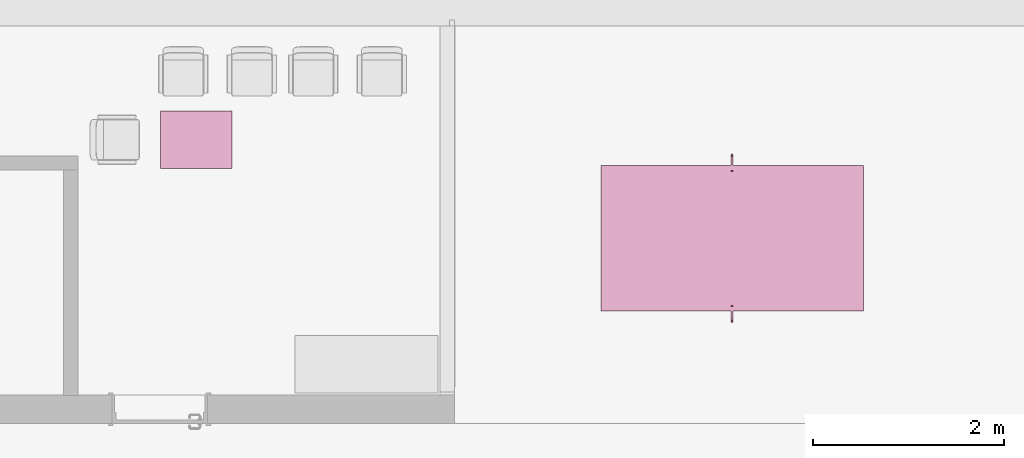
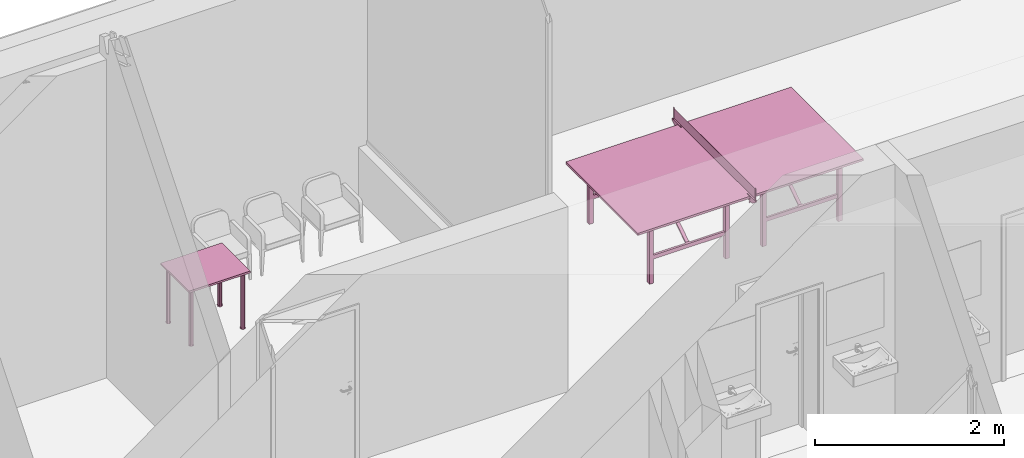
# One storey, part 172 of 194: 2 furnishings.
"""IFC2X3 building model written with IfcOpenShell, lengths in millimetres."""

import ifcopenshell
import ifcopenshell.guid

model = None  # the IFC model being written
_history = None  # IfcOwnerHistory: only IFC2X3 demands one
_inside = {}  # id of a spatial element -> (the spatial element, [elements in it])
_under = {}  # id of a project, library or spatial element -> (it, [spatial elements below it])
_declared = {}  # id of a project -> (the project, [libraries it declares])
_typed = {}  # id of a type object -> (the type object, [elements of that type])
_made_of = {}  # id of a material, layer set ... -> (it, [elements and type objects made of it])


def new_model(schema):
    """Start an empty IFC model of exactly this schema.

    Asked for "IFC4X3", IfcOpenShell would pick the latest addendum, in which some entities
    have other attributes; the version numbers below select the first issue.
    IFC2X3 requires an IfcOwnerHistory on every rooted entity: one is made here for all.
    """
    global model, _history
    if schema == "IFC4X3":
        model = ifcopenshell.file(schema_version=(4, 3, 0, 0))
    else:
        model = ifcopenshell.file(schema=schema)
    _inside.clear()
    _under.clear()
    _declared.clear()
    _typed.clear()
    _made_of.clear()
    _history = None
    if model.schema == "IFC2X3":
        org = make("IfcOrganization", Name="unknown")
        user = make(
            "IfcPersonAndOrganization",
            ThePerson=make("IfcPerson", FamilyName="unknown"),
            TheOrganization=org,
        )
        app = make(
            "IfcApplication",
            ApplicationDeveloper=org,
            Version="unknown",
            ApplicationFullName="unknown",
            ApplicationIdentifier="unknown",
        )
        _history = make(
            "IfcOwnerHistory",
            OwningUser=user,
            OwningApplication=app,
            ChangeAction="ADDED",
            CreationDate=0,
        )
    return model


def make(cls, **values):
    """One entity of the class cls with the attributes given. An attribute that is None is left unset."""
    return model.create_entity(
        cls, **{name: value for name, value in values.items() if value is not None}
    )


def entity(cls, *values):
    """Any entity or typed value of the class cls, its attributes in the order of the schema. None: left unset."""
    e = model.create_entity(cls)
    for i, value in enumerate(values):
        if value is not None:
            e[i] = value
    return e


def rooted(cls, **values):
    """An entity with a GlobalId (a new one), such as an element, a storey or a relation."""
    return make(cls, GlobalId=ifcopenshell.guid.new(), OwnerHistory=_history, **values)


def si_unit(unit_type, name, prefix=None):
    """IfcSIUnit, for example si_unit("LENGTHUNIT", "METRE", prefix="MILLI")."""
    return make("IfcSIUnit", UnitType=unit_type, Prefix=prefix, Name=name)


def converted_unit(unit_type, name, factor, base, dimensions=None, offset=None):
    """IfcConversionBasedUnit, such as the inch: factor (a typed value) times the base unit."""
    return make(
        "IfcConversionBasedUnit"
        if offset is None
        else "IfcConversionBasedUnitWithOffset",
        ConversionOffset=offset,
        Dimensions=None
        if dimensions is None
        else entity("IfcDimensionalExponents", *dimensions),
        UnitType=unit_type,
        Name=name,
        ConversionFactor=make(
            "IfcMeasureWithUnit", ValueComponent=factor, UnitComponent=base
        ),
    )


def derived_unit(unit_type, elements):
    """IfcDerivedUnit: a product of units, each with its exponent."""
    return make(
        "IfcDerivedUnit",
        Elements=[
            make("IfcDerivedUnitElement", Unit=unit, Exponent=power)
            for unit, power in elements
        ],
        UnitType=unit_type,
    )


def money_unit(currency):
    """IfcMonetaryUnit."""
    return make("IfcMonetaryUnit", Currency=currency)


def assignment(units):
    """IfcUnitAssignment: the units of a project."""
    return None if units is None else make("IfcUnitAssignment", Units=units)


def point(xyz):
    """IfcCartesianPoint."""
    return None if xyz is None else make("IfcCartesianPoint", Coordinates=xyz)


def direction(xyz):
    """IfcDirection."""
    return None if xyz is None else make("IfcDirection", DirectionRatios=xyz)


def frame(location, z_axis=None, x_axis=None):
    """IfcAxis2Placement3D, a coordinate frame: its origin and axes. An axis left out is left unset."""
    return make(
        "IfcAxis2Placement3D",
        Location=point(location),
        Axis=direction(z_axis),
        RefDirection=direction(x_axis),
    )


def origin_with_axes():
    """The frame at (0, 0, 0) with the z axis (0, 0, 1) and the x axis (1, 0, 0) written out."""
    return frame((0.0, 0.0, 0.0), z_axis=(0.0, 0.0, 1.0), x_axis=(1.0, 0.0, 0.0))


def place(relative_to, where):
    """IfcLocalPlacement: puts the frame where relative to a parent placement (None: the world)."""
    return make(
        "IfcLocalPlacement", PlacementRelTo=relative_to, RelativePlacement=where
    )


def context(
    kind, dimensions, precision=None, world=None, true_north=None, identifier=None
):
    """IfcGeometricRepresentationContext, for example the 3D "Model" context."""
    return make(
        "IfcGeometricRepresentationContext",
        ContextIdentifier=identifier,
        ContextType=kind,
        CoordinateSpaceDimension=dimensions,
        Precision=precision,
        WorldCoordinateSystem=world,
        TrueNorth=true_north,
    )


def subcontext(parent, identifier, kind, view, scale=None):
    """IfcGeometricRepresentationSubContext, for example "Body" below "Model"."""
    return make(
        "IfcGeometricRepresentationSubContext",
        ContextIdentifier=identifier,
        ContextType=kind,
        ParentContext=parent,
        TargetScale=scale,
        TargetView=view,
    )


def project(units=None, contexts=None):
    """IfcProject with its units and contexts."""
    return rooted(
        "IfcProject",
        Name="project",
        RepresentationContexts=contexts,
        UnitsInContext=assignment(units),
    )


def spatial(cls, under=None, at=None, **own):
    """A site, building, storey or space (cls), placed at a placement, below another one or the project."""
    s = rooted(cls, ObjectPlacement=at, **own)
    if under is not None:
        _under.setdefault(under.id(), (under, []))[1].append(s)
    return s


def faces_of(points, faces, orient=None, outer=None):
    """IfcFace entities. A face is a list of loops; a loop is a list of indices into points, from 0.

    orient and outer hold one flag for each loop. By default every Orientation is true, the
    first loop of a face is its IfcFaceOuterBound and the others are IfcFaceBound.
    """
    made = []
    for i, loops in enumerate(faces):
        bounds = []
        for j, loop in enumerate(loops):
            is_outer = j == 0 if outer is None else outer[i][j]
            bounds.append(
                make(
                    "IfcFaceOuterBound" if is_outer else "IfcFaceBound",
                    Bound=make("IfcPolyLoop", Polygon=[points[k] for k in loop]),
                    Orientation=True if orient is None else orient[i][j],
                )
            )
        made.append(make("IfcFace", Bounds=bounds))
    return made


def faceted_brep(points, faces, orient=None, outer=None, voids=None):
    """IfcFacetedBrep: a solid bounded by flat faces; with voids (closed shells), ...WithVoids."""
    shared = [point(p) for p in points]
    hull = make("IfcClosedShell", CfsFaces=faces_of(shared, faces, orient, outer))
    if voids is None:
        return make("IfcFacetedBrep", Outer=hull)
    return make(
        "IfcFacetedBrepWithVoids",
        Outer=hull,
        Voids=[
            make(cls, CfsFaces=faces_of(shared, fs, o, b)) for cls, fs, o, b in voids
        ],
    )


def shape(context_of_items, identifier, shape_type, items):
    """IfcShapeRepresentation: the items that make up one representation, for example the "Body"."""
    return make(
        "IfcShapeRepresentation",
        ContextOfItems=context_of_items,
        RepresentationIdentifier=identifier,
        RepresentationType=shape_type,
        Items=items,
    )


def made_of(thing, what):
    """Note that an element or type object is made of a material, layer set ...; save() writes the relation."""
    if what is not None:
        _made_of.setdefault(what.id(), (what, []))[1].append(thing)
    return thing


def type_object(cls, material=None, **own):
    """A type object (cls), such as IfcWallType, which elements share."""
    return made_of(rooted(cls, **own), material)


def element(
    cls,
    number,
    at=None,
    inside=None,
    cuts=None,
    type_object=None,
    material=None,
    context=None,
    identifier="Body",
    shape_type=None,
    held_by="IfcProductDefinitionShape",
    body=None,
    shapes=None,
    **own,
):
    """One element of the class cls, such as IfcWall. Its Tag is "e" and its number.

    at: its placement. inside: the storey or other place that contains it. cuts: it is an
    opening in that element (IfcRelVoidsElement). A single representation is given by context,
    identifier, shape_type and body (its items); several are given by shapes. held_by: the class
    of the entity that holds the representations. save() writes the other relations.
    """
    e = rooted(cls, Tag="e%d" % number, ObjectPlacement=at, **own)
    if body is not None:
        shapes = [shape(context, identifier, shape_type, body)]
    if shapes is not None:
        e.Representation = make(held_by, Representations=shapes)
    if inside is not None:
        _inside.setdefault(inside.id(), (inside, []))[1].append(e)
    if cuts is not None:
        rooted(
            "IfcRelVoidsElement", RelatingBuildingElement=cuts, RelatedOpeningElement=e
        )
    if type_object is not None:
        _typed.setdefault(type_object.id(), (type_object, []))[1].append(e)
    return made_of(e, material)


def aggregate(whole, parts):
    """IfcRelAggregates: a whole, such as a stair, and the parts it consists of."""
    return rooted("IfcRelAggregates", RelatingObject=whole, RelatedObjects=parts)


def save(model, path):
    """Write the relations noted so far, then the file.

    IfcRelAggregates (storeys below a building ...), IfcRelContainedInSpatialStructure (elements
    in a storey), IfcRelDefinesByType, IfcRelAssociatesMaterial and IfcRelDeclares: one each for
    every whole, place, type object, material and project.
    """
    for whole, parts in _under.values():
        aggregate(whole, parts)
    for where, things in _inside.values():
        rooted(
            "IfcRelContainedInSpatialStructure",
            RelatedElements=things,
            RelatingStructure=where,
        )
    for kind, things in _typed.values():
        rooted("IfcRelDefinesByType", RelatedObjects=things, RelatingType=kind)
    for what, things in _made_of.values():
        rooted("IfcRelAssociatesMaterial", RelatedObjects=things, RelatingMaterial=what)
    for by, libraries in _declared.values():
        rooted("IfcRelDeclares", RelatingContext=by, RelatedDefinitions=libraries)
    model.write(path)


model = new_model("IFC2X3")

# Units and contexts
model_context = context("Model", 3, precision=1e-05, world=origin_with_axes(), true_north=direction((0.0, 1.0)))
body_context = subcontext(model_context, "Body", "Model", "MODEL_VIEW")
ifc_project = project(units=[si_unit("LENGTHUNIT", "METRE", prefix="MILLI"), si_unit("AREAUNIT", "SQUARE_METRE"), si_unit("VOLUMEUNIT", "CUBIC_METRE"), converted_unit("PLANEANGLEUNIT", "DEGREE", entity("IfcPlaneAngleMeasure", 0.0174532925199), si_unit("PLANEANGLEUNIT", "RADIAN"), dimensions=[0, 0, 0, 0, 0, 0, 0]), si_unit("SOLIDANGLEUNIT", "STERADIAN"), money_unit("EUR"), converted_unit("TIMEUNIT", "Year", entity("IfcTimeMeasure", 31556926.0), si_unit("TIMEUNIT", "SECOND"), dimensions=[0, 0, 1, 0, 0, 0, 0]), si_unit("MASSUNIT", "GRAM", prefix="KILO"), si_unit("THERMODYNAMICTEMPERATUREUNIT", "DEGREE_CELSIUS"), si_unit("LUMINOUSINTENSITYUNIT", "LUMEN"), si_unit("ENERGYUNIT", "JOULE", prefix="MEGA"), derived_unit("THERMALCONDUCTANCEUNIT", [(si_unit("POWERUNIT", "WATT"), 1), (si_unit("LENGTHUNIT", "METRE"), -1), (si_unit("THERMODYNAMICTEMPERATUREUNIT", "KELVIN"), -1)]), derived_unit("SPECIFICHEATCAPACITYUNIT", [(si_unit("ENERGYUNIT", "JOULE"), 1), (si_unit("MASSUNIT", "GRAM", prefix="KILO"), -1), (si_unit("THERMODYNAMICTEMPERATUREUNIT", "KELVIN"), -1)]), derived_unit("MASSDENSITYUNIT", [(si_unit("MASSUNIT", "GRAM", prefix="KILO"), 1), (si_unit("VOLUMEUNIT", "CUBIC_METRE"), -1)])], contexts=[model_context])

# Site, building, storey
site_placement = place(None, origin_with_axes())
site = spatial("IfcSite", under=ifc_project, at=site_placement, Name="Site", CompositionType="ELEMENT")
building_placement = place(site_placement, origin_with_axes())
building = spatial("IfcBuilding", under=site, at=building_placement, Name="Building", CompositionType="ELEMENT")
storey_placement = place(building_placement, frame((0.0, 0.0, 3000.0), z_axis=(0.0, 0.0, 1.0), x_axis=(1.0, 0.0, 0.0)))
storey = spatial("IfcBuildingStorey", under=building, at=storey_placement, Name="2 KORRUS", CompositionType="ELEMENT", Elevation=3000.0)

# Furnishings
furnishing_element_type_1 = type_object("IfcFurnishingElementType", Name="Model Element 125")
furnishing_1_placement = place(storey_placement, frame((73148.045491, 44642.9597358, 0.0), z_axis=(0.0, 0.0, 1.0), x_axis=(1.0, 0.0, 0.0)))
element("IfcFurnishingElement", 1, at=furnishing_1_placement, inside=storey, type_object=furnishing_element_type_1, Name="FU - 021", context=body_context, shape_type="Brep", body=[
    faceted_brep([(-1127.0, -662.5, 0.0), (-1127.0, -612.5, 0.0), (-1127.0, -612.5, 762.0), (-1127.0, -662.5, 762.0), (-1177.0, -662.5, 0.0), (-1177.0, -612.5, 0.0), (-1177.0, -612.5, 762.0), (-1177.0, -662.5, 762.0)], [[[0, 1, 2, 3]], [[0, 4, 5, 1]], [[1, 5, 6, 2]], [[3, 2, 6, 7]], [[4, 0, 3, 7]], [[5, 4, 7, 6]]]),
    faceted_brep([(-200.0, -662.5, 0.0), (-200.0, -612.5, 0.0), (-200.0, -612.5, 762.0), (-200.0, -662.5, 762.0), (-250.0, -662.5, 0.0), (-250.0, -612.5, 0.0), (-250.0, -612.5, 762.0), (-250.0, -662.5, 762.0)], [[[0, 1, 2, 3]], [[0, 4, 5, 1]], [[1, 5, 6, 2]], [[3, 2, 6, 7]], [[4, 0, 3, 7]], [[5, 4, 7, 6]]]),
    faceted_brep([(-1127.0, -650.0, 300.0), (-250.0, -650.0, 300.0), (-250.0, -650.0, 350.0), (-1127.0, -650.0, 350.0), (-1127.0, -625.0, 300.0), (-250.0, -625.0, 300.0), (-250.0, -625.0, 350.0), (-1127.0, -625.0, 350.0)], [[[0, 1, 2, 3]], [[0, 4, 5, 1]], [[1, 5, 6, 2]], [[3, 2, 6, 7]], [[4, 0, 3, 7]], [[5, 4, 7, 6]]]),
    faceted_brep([(-738.5, -25.0, 732.0), (-638.5, -25.0, 732.0), (-638.5, -25.0, 762.0), (-738.5, -25.0, 762.0), (-738.5, 0.0, 732.0), (-638.5, 0.0, 732.0), (-638.5, 0.0, 762.0), (-738.5, 0.0, 762.0)], [[[0, 1, 2, 3]], [[0, 4, 5, 1]], [[1, 5, 6, 2]], [[3, 2, 6, 7]], [[4, 0, 3, 7]], [[5, 4, 7, 6]]]),
    faceted_brep([(-708.5, 0.0, 732.0), (-708.5, 615.0, 332.0), (-668.5, 615.0, 332.0), (-668.5, 0.0, 732.0), (-708.5, 25.0, 732.0), (-708.5, 615.0, 350.0), (-668.5, 615.0, 350.0), (-668.5, 25.0, 732.0)], [[[0, 1, 2, 3]], [[0, 4, 5, 1]], [[1, 5, 6, 2]], [[3, 2, 6, 7]], [[4, 0, 3, 7]], [[5, 4, 7, 6]]]),
    faceted_brep([(-718.5, 615.0, 307.0), (-718.5, 625.0, 307.0), (-658.5, 625.0, 307.0), (-658.5, 615.0, 307.0), (-718.5, 615.0, 350.0), (-718.5, 625.0, 350.0), (-658.5, 625.0, 350.0), (-658.5, 615.0, 350.0)], [[[0, 1, 2, 3]], [[0, 4, 5, 1]], [[1, 5, 6, 2]], [[3, 2, 6, 7]], [[4, 0, 3, 7]], [[5, 4, 7, 6]]]),
    faceted_brep([(-250.0, 662.5, 0.0), (-250.0, 612.5, 0.0), (-250.0, 612.5, 762.0), (-250.0, 662.5, 762.0), (-200.0, 662.5, 0.0), (-200.0, 612.5, 0.0), (-200.0, 612.5, 762.0), (-200.0, 662.5, 762.0)], [[[0, 1, 2, 3]], [[0, 4, 5, 1]], [[1, 5, 6, 2]], [[3, 2, 6, 7]], [[4, 0, 3, 7]], [[5, 4, 7, 6]]]),
    faceted_brep([(-1177.0, 662.5, 0.0), (-1177.0, 612.5, 0.0), (-1177.0, 612.5, 762.0), (-1177.0, 662.5, 762.0), (-1127.0, 662.5, 0.0), (-1127.0, 612.5, 0.0), (-1127.0, 612.5, 762.0), (-1127.0, 662.5, 762.0)], [[[0, 1, 2, 3]], [[0, 4, 5, 1]], [[1, 5, 6, 2]], [[3, 2, 6, 7]], [[4, 0, 3, 7]], [[5, 4, 7, 6]]]),
    faceted_brep([(-250.0, 650.0, 300.0), (-1127.0, 650.0, 300.0), (-1127.0, 650.0, 350.0), (-250.0, 650.0, 350.0), (-250.0, 625.0, 300.0), (-1127.0, 625.0, 300.0), (-1127.0, 625.0, 350.0), (-250.0, 625.0, 350.0)], [[[0, 1, 2, 3]], [[0, 4, 5, 1]], [[1, 5, 6, 2]], [[3, 2, 6, 7]], [[4, 0, 3, 7]], [[5, 4, 7, 6]]]),
    faceted_brep([(-638.5, 25.0, 732.0), (-738.5, 25.0, 732.0), (-738.5, 25.0, 762.0), (-638.5, 25.0, 762.0), (-638.5, 0.0, 732.0), (-738.5, 0.0, 732.0), (-738.5, 0.0, 762.0), (-638.5, 0.0, 762.0)], [[[0, 1, 2, 3]], [[0, 4, 5, 1]], [[1, 5, 6, 2]], [[3, 2, 6, 7]], [[4, 0, 3, 7]], [[5, 4, 7, 6]]]),
    faceted_brep([(-668.5, 0.0, 732.0), (-668.5, -615.0, 332.0), (-708.5, -615.0, 332.0), (-708.5, 0.0, 732.0), (-668.5, -25.0, 732.0), (-668.5, -615.0, 350.0), (-708.5, -615.0, 350.0), (-708.5, -25.0, 732.0)], [[[0, 1, 2, 3]], [[0, 4, 5, 1]], [[1, 5, 6, 2]], [[3, 2, 6, 7]], [[4, 0, 3, 7]], [[5, 4, 7, 6]]]),
    faceted_brep([(-658.5, -615.0, 307.0), (-658.5, -625.0, 307.0), (-718.5, -625.0, 307.0), (-718.5, -615.0, 307.0), (-658.5, -615.0, 350.0), (-658.5, -625.0, 350.0), (-718.5, -625.0, 350.0), (-718.5, -615.0, 350.0)], [[[0, 1, 2, 3]], [[0, 4, 5, 1]], [[1, 5, 6, 2]], [[3, 2, 6, 7]], [[4, 0, 3, 7]], [[5, 4, 7, 6]]]),
    faceted_brep([(-1377.0, -762.5, 762.0), (0.0, -762.5, 762.0), (0.0, -762.5, 787.0), (-1377.0, -762.5, 787.0), (-1377.0, 762.5, 762.0), (0.0, 762.5, 762.0), (0.0, 762.5, 787.0), (-1377.0, 762.5, 787.0)], [[[0, 1, 2, 3]], [[0, 4, 5, 1]], [[1, 5, 6, 2]], [[3, 2, 6, 7]], [[4, 0, 3, 7]], [[5, 4, 7, 6]]]),
    faceted_brep([(-1357.0, -742.5, 787.0), (0.0, -742.5, 787.0), (0.0, -742.5, 789.0), (-1357.0, -742.5, 789.0), (-1357.0, -10.0, 787.0), (-50.0, -10.0, 787.0), (-50.0, 10.0, 787.0), (-1357.0, 10.0, 787.0), (-1357.0, 742.5, 787.0), (0.0, 742.5, 787.0), (0.0, 742.5, 789.0), (-1357.0, 742.5, 789.0), (-1357.0, 10.0, 789.0), (-50.0, 10.0, 789.0), (-50.0, -10.0, 789.0), (-1357.0, -10.0, 789.0)], [[[0, 1, 2, 3]], [[0, 4, 5, 6, 7, 8, 9, 1]], [[1, 9, 10, 2]], [[3, 2, 10, 11, 12, 13, 14, 15]], [[4, 0, 3, 15]], [[5, 4, 15, 14]], [[6, 5, 14, 13]], [[7, 6, 13, 12]], [[8, 7, 12, 11]], [[9, 8, 11, 10]]]),
    faceted_brep([(-1377.0, -762.5, 787.0), (0.0, -762.5, 787.0), (0.0, -762.5, 789.0), (-1377.0, -762.5, 789.0), (-1377.0, 762.5, 787.0), (0.0, 762.5, 787.0), (0.0, 742.5, 787.0), (-1357.0, 742.5, 787.0), (-1357.0, 10.0, 787.0), (-50.0, 10.0, 787.0), (-50.0, -10.0, 787.0), (-1357.0, -10.0, 787.0), (-1357.0, -742.5, 787.0), (0.0, -742.5, 787.0), (0.0, -742.5, 789.0), (-1357.0, -742.5, 789.0), (-1357.0, -10.0, 789.0), (-50.0, -10.0, 789.0), (-50.0, 10.0, 789.0), (-1357.0, 10.0, 789.0), (-1357.0, 742.5, 789.0), (0.0, 742.5, 789.0), (0.0, 762.5, 789.0), (-1377.0, 762.5, 789.0)], [[[0, 1, 2, 3]], [[0, 4, 5, 6, 7, 8, 9, 10, 11, 12, 13, 1]], [[1, 13, 14, 2]], [[3, 2, 14, 15, 16, 17, 18, 19, 20, 21, 22, 23]], [[4, 0, 3, 23]], [[5, 4, 23, 22]], [[6, 5, 22, 21]], [[7, 6, 21, 20]], [[8, 7, 20, 19]], [[9, 8, 19, 18]], [[10, 9, 18, 17]], [[11, 10, 17, 16]], [[12, 11, 16, 15]], [[13, 12, 15, 14]]]),
    faceted_brep([(10.0, -722.5, 729.0), (10.0, -812.5, 729.0), (-10.0, -812.5, 729.0), (-10.0, -722.5, 729.0), (10.0, -722.5, 749.0), (10.0, -762.5, 749.0), (10.0, -762.5, 789.0), (10.0, -702.5, 789.0), (10.0, -712.5, 799.0), (10.0, -882.5, 799.0), (10.0, -882.5, 779.0), (-10.0, -882.5, 779.0), (-10.0, -882.5, 799.0), (-10.0, -712.5, 799.0), (-10.0, -702.5, 789.0), (-10.0, -762.5, 789.0), (-10.0, -762.5, 749.0), (-10.0, -722.5, 749.0)], [[[0, 1, 2, 3]], [[0, 4, 5, 6, 7, 8, 9, 10, 1]], [[1, 10, 11, 2]], [[3, 2, 11, 12, 13, 14, 15, 16, 17]], [[4, 0, 3, 17]], [[5, 4, 17, 16]], [[6, 5, 16, 15]], [[7, 6, 15, 14]], [[8, 7, 14, 13]], [[9, 8, 13, 12]], [[10, 9, 12, 11]]]),
    faceted_brep([(-4.33012701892, -865.0, 799.0), (-4.33012701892, -860.0, 799.0), (0.0, -857.5, 799.0), (4.33012701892, -860.0, 799.0), (4.33012701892, -865.0, 799.0), (0.0, -867.5, 799.0), (-4.33012701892, -865.0, 949.0), (-4.33012701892, -860.0, 949.0), (0.0, -857.5, 949.0), (4.33012701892, -860.0, 949.0), (4.33012701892, -865.0, 949.0), (0.0, -867.5, 949.0)], [[[0, 1, 2, 3, 4, 5]], [[1, 0, 6, 7]], [[2, 1, 7, 8]], [[3, 2, 8, 9]], [[4, 3, 9, 10]], [[5, 4, 10, 11]], [[0, 5, 11, 6]], [[6, 11, 10, 9, 8, 7]]]),
    faceted_brep([(-8.66025403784, -747.5, 759.5), (-8.66025403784, -737.5, 759.5), (0.0, -732.5, 759.5), (8.66025403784, -737.5, 759.5), (8.66025403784, -747.5, 759.5), (0.0, -752.5, 759.5), (-8.66025403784, -747.5, 762.0), (-8.66025403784, -737.5, 762.0), (0.0, -732.5, 762.0), (8.66025403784, -737.5, 762.0), (8.66025403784, -747.5, 762.0), (0.0, -752.5, 762.0)], [[[0, 1, 2, 3, 4, 5]], [[1, 0, 6, 7]], [[2, 1, 7, 8]], [[3, 2, 8, 9]], [[4, 3, 9, 10]], [[5, 4, 10, 11]], [[0, 5, 11, 6]], [[6, 11, 10, 9, 8, 7]]]),
    faceted_brep([(-1.60696902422, -744.415111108, 749.0), (-2.46201938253, -742.934120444, 749.0), (-2.16506350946, -741.25, 749.0), (-0.85505035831, -740.150768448, 749.0), (0.85505035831, -740.150768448, 749.0), (2.16506350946, -741.25, 749.0), (2.46201938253, -742.934120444, 749.0), (1.60696902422, -744.415111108, 749.0), (0.0, -745.0, 749.0), (-1.60696902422, -744.415111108, 759.5), (-2.46201938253, -742.934120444, 759.5), (-2.16506350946, -741.25, 759.5), (-0.85505035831, -740.150768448, 759.5), (0.85505035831, -740.150768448, 759.5), (2.16506350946, -741.25, 759.5), (2.46201938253, -742.934120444, 759.5), (1.60696902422, -744.415111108, 759.5), (0.0, -745.0, 759.5)], [[[0, 1, 2, 3, 4, 5, 6, 7, 8]], [[1, 0, 9, 10]], [[2, 1, 10, 11]], [[3, 2, 11, 12]], [[4, 3, 12, 13]], [[5, 4, 13, 14]], [[6, 5, 14, 15]], [[7, 6, 15, 16]], [[8, 7, 16, 17]], [[0, 8, 17, 9]], [[9, 17, 16, 15, 14, 13, 12, 11, 10]]]),
    faceted_brep([(-1.60696902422, -744.415111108, 709.0), (-2.46201938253, -742.934120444, 709.0), (-2.16506350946, -741.25, 709.0), (-0.85505035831, -740.150768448, 709.0), (0.85505035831, -740.150768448, 709.0), (2.16506350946, -741.25, 709.0), (2.46201938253, -742.934120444, 709.0), (1.60696902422, -744.415111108, 709.0), (0.0, -745.0, 709.0), (-1.60696902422, -744.415111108, 729.0), (-2.46201938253, -742.934120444, 729.0), (-2.16506350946, -741.25, 729.0), (-0.85505035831, -740.150768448, 729.0), (0.85505035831, -740.150768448, 729.0), (2.16506350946, -741.25, 729.0), (2.46201938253, -742.934120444, 729.0), (1.60696902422, -744.415111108, 729.0), (0.0, -745.0, 729.0)], [[[0, 1, 2, 3, 4, 5, 6, 7, 8]], [[1, 0, 9, 10]], [[2, 1, 10, 11]], [[3, 2, 11, 12]], [[4, 3, 12, 13]], [[5, 4, 13, 14]], [[6, 5, 14, 15]], [[7, 6, 15, 16]], [[8, 7, 16, 17]], [[0, 8, 17, 9]], [[9, 17, 16, 15, 14, 13, 12, 11, 10]]]),
    faceted_brep([(-3.21393804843, -746.330222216, 704.0), (-4.92403876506, -743.368240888, 704.0), (-4.33012701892, -740.0, 704.0), (-1.71010071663, -737.801536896, 704.0), (1.71010071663, -737.801536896, 704.0), (4.33012701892, -740.0, 704.0), (4.92403876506, -743.368240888, 704.0), (3.21393804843, -746.330222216, 704.0), (0.0, -747.5, 704.0), (-3.21393804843, -746.330222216, 709.0), (-4.92403876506, -743.368240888, 709.0), (-4.33012701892, -740.0, 709.0), (-1.71010071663, -737.801536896, 709.0), (1.71010071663, -737.801536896, 709.0), (4.33012701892, -740.0, 709.0), (4.92403876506, -743.368240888, 709.0), (3.21393804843, -746.330222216, 709.0), (0.0, -747.5, 709.0)], [[[0, 1, 2, 3, 4, 5, 6, 7, 8]], [[1, 0, 9, 10]], [[2, 1, 10, 11]], [[3, 2, 11, 12]], [[4, 3, 12, 13]], [[5, 4, 13, 14]], [[6, 5, 14, 15]], [[7, 6, 15, 16]], [[8, 7, 16, 17]], [[0, 8, 17, 9]], [[9, 17, 16, 15, 14, 13, 12, 11, 10]]]),
    faceted_brep([(-6.42787609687, -750.160444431, 697.0), (-9.84807753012, -744.236481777, 697.0), (-8.66025403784, -737.5, 697.0), (-3.42020143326, -733.103073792, 697.0), (3.42020143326, -733.103073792, 697.0), (8.66025403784, -737.5, 697.0), (9.84807753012, -744.236481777, 697.0), (6.42787609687, -750.160444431, 697.0), (0.0, -752.5, 697.0), (-6.42787609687, -750.160444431, 704.0), (-9.84807753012, -744.236481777, 704.0), (-8.66025403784, -737.5, 704.0), (-3.42020143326, -733.103073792, 704.0), (3.42020143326, -733.103073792, 704.0), (8.66025403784, -737.5, 704.0), (9.84807753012, -744.236481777, 704.0), (6.42787609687, -750.160444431, 704.0), (0.0, -752.5, 704.0)], [[[0, 1, 2, 3, 4, 5, 6, 7, 8]], [[1, 0, 9, 10]], [[2, 1, 10, 11]], [[3, 2, 11, 12]], [[4, 3, 12, 13]], [[5, 4, 13, 14]], [[6, 5, 14, 15]], [[7, 6, 15, 16]], [[8, 7, 16, 17]], [[0, 8, 17, 9]], [[9, 17, 16, 15, 14, 13, 12, 11, 10]]]),
    faceted_brep([(1127.0, 662.5, 0.0), (1127.0, 612.5, 0.0), (1127.0, 612.5, 762.0), (1127.0, 662.5, 762.0), (1177.0, 662.5, 0.0), (1177.0, 612.5, 0.0), (1177.0, 612.5, 762.0), (1177.0, 662.5, 762.0)], [[[0, 1, 2, 3]], [[0, 4, 5, 1]], [[1, 5, 6, 2]], [[3, 2, 6, 7]], [[4, 0, 3, 7]], [[5, 4, 7, 6]]]),
    faceted_brep([(200.0, 662.5, 0.0), (200.0, 612.5, 0.0), (200.0, 612.5, 762.0), (200.0, 662.5, 762.0), (250.0, 662.5, 0.0), (250.0, 612.5, 0.0), (250.0, 612.5, 762.0), (250.0, 662.5, 762.0)], [[[0, 1, 2, 3]], [[0, 4, 5, 1]], [[1, 5, 6, 2]], [[3, 2, 6, 7]], [[4, 0, 3, 7]], [[5, 4, 7, 6]]]),
    faceted_brep([(1127.0, 650.0, 300.0), (250.0, 650.0, 300.0), (250.0, 650.0, 350.0), (1127.0, 650.0, 350.0), (1127.0, 625.0, 300.0), (250.0, 625.0, 300.0), (250.0, 625.0, 350.0), (1127.0, 625.0, 350.0)], [[[0, 1, 2, 3]], [[0, 4, 5, 1]], [[1, 5, 6, 2]], [[3, 2, 6, 7]], [[4, 0, 3, 7]], [[5, 4, 7, 6]]]),
    faceted_brep([(738.5, 25.0, 732.0), (638.5, 25.0, 732.0), (638.5, 25.0, 762.0), (738.5, 25.0, 762.0), (738.5, 0.0, 732.0), (638.5, 0.0, 732.0), (638.5, 0.0, 762.0), (738.5, 0.0, 762.0)], [[[0, 1, 2, 3]], [[0, 4, 5, 1]], [[1, 5, 6, 2]], [[3, 2, 6, 7]], [[4, 0, 3, 7]], [[5, 4, 7, 6]]]),
    faceted_brep([(708.5, 0.0, 732.0), (708.5, -615.0, 332.0), (668.5, -615.0, 332.0), (668.5, 0.0, 732.0), (708.5, -25.0, 732.0), (708.5, -615.0, 350.0), (668.5, -615.0, 350.0), (668.5, -25.0, 732.0)], [[[0, 1, 2, 3]], [[0, 4, 5, 1]], [[1, 5, 6, 2]], [[3, 2, 6, 7]], [[4, 0, 3, 7]], [[5, 4, 7, 6]]]),
    faceted_brep([(718.5, -615.0, 307.0), (718.5, -625.0, 307.0), (658.5, -625.0, 307.0), (658.5, -615.0, 307.0), (718.5, -615.0, 350.0), (718.5, -625.0, 350.0), (658.5, -625.0, 350.0), (658.5, -615.0, 350.0)], [[[0, 1, 2, 3]], [[0, 4, 5, 1]], [[1, 5, 6, 2]], [[3, 2, 6, 7]], [[4, 0, 3, 7]], [[5, 4, 7, 6]]]),
    faceted_brep([(250.0, -662.5, 0.0), (250.0, -612.5, 0.0), (250.0, -612.5, 762.0), (250.0, -662.5, 762.0), (200.0, -662.5, 0.0), (200.0, -612.5, 0.0), (200.0, -612.5, 762.0), (200.0, -662.5, 762.0)], [[[0, 1, 2, 3]], [[0, 4, 5, 1]], [[1, 5, 6, 2]], [[3, 2, 6, 7]], [[4, 0, 3, 7]], [[5, 4, 7, 6]]]),
    faceted_brep([(1177.0, -662.5, 0.0), (1177.0, -612.5, 0.0), (1177.0, -612.5, 762.0), (1177.0, -662.5, 762.0), (1127.0, -662.5, 0.0), (1127.0, -612.5, 0.0), (1127.0, -612.5, 762.0), (1127.0, -662.5, 762.0)], [[[0, 1, 2, 3]], [[0, 4, 5, 1]], [[1, 5, 6, 2]], [[3, 2, 6, 7]], [[4, 0, 3, 7]], [[5, 4, 7, 6]]]),
    faceted_brep([(250.0, -650.0, 300.0), (1127.0, -650.0, 300.0), (1127.0, -650.0, 350.0), (250.0, -650.0, 350.0), (250.0, -625.0, 300.0), (1127.0, -625.0, 300.0), (1127.0, -625.0, 350.0), (250.0, -625.0, 350.0)], [[[0, 1, 2, 3]], [[0, 4, 5, 1]], [[1, 5, 6, 2]], [[3, 2, 6, 7]], [[4, 0, 3, 7]], [[5, 4, 7, 6]]]),
    faceted_brep([(638.5, -25.0, 732.0), (738.5, -25.0, 732.0), (738.5, -25.0, 762.0), (638.5, -25.0, 762.0), (638.5, 0.0, 732.0), (738.5, 0.0, 732.0), (738.5, 0.0, 762.0), (638.5, 0.0, 762.0)], [[[0, 1, 2, 3]], [[0, 4, 5, 1]], [[1, 5, 6, 2]], [[3, 2, 6, 7]], [[4, 0, 3, 7]], [[5, 4, 7, 6]]]),
    faceted_brep([(668.5, 0.0, 732.0), (668.5, 615.0, 332.0), (708.5, 615.0, 332.0), (708.5, 0.0, 732.0), (668.5, 25.0, 732.0), (668.5, 615.0, 350.0), (708.5, 615.0, 350.0), (708.5, 25.0, 732.0)], [[[0, 1, 2, 3]], [[0, 4, 5, 1]], [[1, 5, 6, 2]], [[3, 2, 6, 7]], [[4, 0, 3, 7]], [[5, 4, 7, 6]]]),
    faceted_brep([(658.5, 615.0, 307.0), (658.5, 625.0, 307.0), (718.5, 625.0, 307.0), (718.5, 615.0, 307.0), (658.5, 615.0, 350.0), (658.5, 625.0, 350.0), (718.5, 625.0, 350.0), (718.5, 615.0, 350.0)], [[[0, 1, 2, 3]], [[0, 4, 5, 1]], [[1, 5, 6, 2]], [[3, 2, 6, 7]], [[4, 0, 3, 7]], [[5, 4, 7, 6]]]),
    faceted_brep([(1377.0, 762.5, 762.0), (0.0, 762.5, 762.0), (0.0, 762.5, 787.0), (1377.0, 762.5, 787.0), (1377.0, -762.5, 762.0), (0.0, -762.5, 762.0), (0.0, -762.5, 787.0), (1377.0, -762.5, 787.0)], [[[0, 1, 2, 3]], [[0, 4, 5, 1]], [[1, 5, 6, 2]], [[3, 2, 6, 7]], [[4, 0, 3, 7]], [[5, 4, 7, 6]]]),
    faceted_brep([(1357.0, 742.5, 787.0), (0.0, 742.5, 787.0), (0.0, 742.5, 789.0), (1357.0, 742.5, 789.0), (1357.0, 10.0, 787.0), (50.0, 10.0, 787.0), (50.0, -10.0, 787.0), (1357.0, -10.0, 787.0), (1357.0, -742.5, 787.0), (0.0, -742.5, 787.0), (0.0, -742.5, 789.0), (1357.0, -742.5, 789.0), (1357.0, -10.0, 789.0), (50.0, -10.0, 789.0), (50.0, 10.0, 789.0), (1357.0, 10.0, 789.0)], [[[0, 1, 2, 3]], [[0, 4, 5, 6, 7, 8, 9, 1]], [[1, 9, 10, 2]], [[3, 2, 10, 11, 12, 13, 14, 15]], [[4, 0, 3, 15]], [[5, 4, 15, 14]], [[6, 5, 14, 13]], [[7, 6, 13, 12]], [[8, 7, 12, 11]], [[9, 8, 11, 10]]]),
    faceted_brep([(1377.0, 762.5, 787.0), (0.0, 762.5, 787.0), (0.0, 762.5, 789.0), (1377.0, 762.5, 789.0), (1377.0, -762.5, 787.0), (0.0, -762.5, 787.0), (0.0, -742.5, 787.0), (1357.0, -742.5, 787.0), (1357.0, -10.0, 787.0), (50.0, -10.0, 787.0), (50.0, 10.0, 787.0), (1357.0, 10.0, 787.0), (1357.0, 742.5, 787.0), (0.0, 742.5, 787.0), (0.0, 742.5, 789.0), (1357.0, 742.5, 789.0), (1357.0, 10.0, 789.0), (50.0, 10.0, 789.0), (50.0, -10.0, 789.0), (1357.0, -10.0, 789.0), (1357.0, -742.5, 789.0), (0.0, -742.5, 789.0), (0.0, -762.5, 789.0), (1377.0, -762.5, 789.0)], [[[0, 1, 2, 3]], [[0, 4, 5, 6, 7, 8, 9, 10, 11, 12, 13, 1]], [[1, 13, 14, 2]], [[3, 2, 14, 15, 16, 17, 18, 19, 20, 21, 22, 23]], [[4, 0, 3, 23]], [[5, 4, 23, 22]], [[6, 5, 22, 21]], [[7, 6, 21, 20]], [[8, 7, 20, 19]], [[9, 8, 19, 18]], [[10, 9, 18, 17]], [[11, 10, 17, 16]], [[12, 11, 16, 15]], [[13, 12, 15, 14]]]),
    faceted_brep([(-10.0, 722.5, 729.0), (-10.0, 812.5, 729.0), (10.0, 812.5, 729.0), (10.0, 722.5, 729.0), (-10.0, 722.5, 749.0), (-10.0, 762.5, 749.0), (-10.0, 762.5, 789.0), (-10.0, 702.5, 789.0), (-10.0, 712.5, 799.0), (-10.0, 882.5, 799.0), (-10.0, 882.5, 779.0), (10.0, 882.5, 779.0), (10.0, 882.5, 799.0), (10.0, 712.5, 799.0), (10.0, 702.5, 789.0), (10.0, 762.5, 789.0), (10.0, 762.5, 749.0), (10.0, 722.5, 749.0)], [[[0, 1, 2, 3]], [[0, 4, 5, 6, 7, 8, 9, 10, 1]], [[1, 10, 11, 2]], [[3, 2, 11, 12, 13, 14, 15, 16, 17]], [[4, 0, 3, 17]], [[5, 4, 17, 16]], [[6, 5, 16, 15]], [[7, 6, 15, 14]], [[8, 7, 14, 13]], [[9, 8, 13, 12]], [[10, 9, 12, 11]]]),
    faceted_brep([(4.33012701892, 865.0, 799.0), (4.33012701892, 860.0, 799.0), (0.0, 857.5, 799.0), (-4.33012701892, 860.0, 799.0), (-4.33012701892, 865.0, 799.0), (0.0, 867.5, 799.0), (4.33012701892, 865.0, 949.0), (4.33012701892, 860.0, 949.0), (0.0, 857.5, 949.0), (-4.33012701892, 860.0, 949.0), (-4.33012701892, 865.0, 949.0), (0.0, 867.5, 949.0)], [[[0, 1, 2, 3, 4, 5]], [[1, 0, 6, 7]], [[2, 1, 7, 8]], [[3, 2, 8, 9]], [[4, 3, 9, 10]], [[5, 4, 10, 11]], [[0, 5, 11, 6]], [[6, 11, 10, 9, 8, 7]]]),
    faceted_brep([(8.66025403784, 747.5, 759.5), (8.66025403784, 737.5, 759.5), (0.0, 732.5, 759.5), (-8.66025403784, 737.5, 759.5), (-8.66025403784, 747.5, 759.5), (0.0, 752.5, 759.5), (8.66025403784, 747.5, 762.0), (8.66025403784, 737.5, 762.0), (0.0, 732.5, 762.0), (-8.66025403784, 737.5, 762.0), (-8.66025403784, 747.5, 762.0), (0.0, 752.5, 762.0)], [[[0, 1, 2, 3, 4, 5]], [[1, 0, 6, 7]], [[2, 1, 7, 8]], [[3, 2, 8, 9]], [[4, 3, 9, 10]], [[5, 4, 10, 11]], [[0, 5, 11, 6]], [[6, 11, 10, 9, 8, 7]]]),
    faceted_brep([(1.60696902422, 744.415111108, 749.0), (2.46201938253, 742.934120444, 749.0), (2.16506350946, 741.25, 749.0), (0.85505035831, 740.150768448, 749.0), (-0.85505035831, 740.150768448, 749.0), (-2.16506350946, 741.25, 749.0), (-2.46201938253, 742.934120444, 749.0), (-1.60696902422, 744.415111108, 749.0), (0.0, 745.0, 749.0), (1.60696902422, 744.415111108, 759.5), (2.46201938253, 742.934120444, 759.5), (2.16506350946, 741.25, 759.5), (0.85505035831, 740.150768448, 759.5), (-0.85505035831, 740.150768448, 759.5), (-2.16506350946, 741.25, 759.5), (-2.46201938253, 742.934120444, 759.5), (-1.60696902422, 744.415111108, 759.5), (0.0, 745.0, 759.5)], [[[0, 1, 2, 3, 4, 5, 6, 7, 8]], [[1, 0, 9, 10]], [[2, 1, 10, 11]], [[3, 2, 11, 12]], [[4, 3, 12, 13]], [[5, 4, 13, 14]], [[6, 5, 14, 15]], [[7, 6, 15, 16]], [[8, 7, 16, 17]], [[0, 8, 17, 9]], [[9, 17, 16, 15, 14, 13, 12, 11, 10]]]),
    faceted_brep([(1.60696902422, 744.415111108, 709.0), (2.46201938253, 742.934120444, 709.0), (2.16506350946, 741.25, 709.0), (0.85505035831, 740.150768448, 709.0), (-0.85505035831, 740.150768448, 709.0), (-2.16506350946, 741.25, 709.0), (-2.46201938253, 742.934120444, 709.0), (-1.60696902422, 744.415111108, 709.0), (0.0, 745.0, 709.0), (1.60696902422, 744.415111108, 729.0), (2.46201938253, 742.934120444, 729.0), (2.16506350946, 741.25, 729.0), (0.85505035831, 740.150768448, 729.0), (-0.85505035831, 740.150768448, 729.0), (-2.16506350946, 741.25, 729.0), (-2.46201938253, 742.934120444, 729.0), (-1.60696902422, 744.415111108, 729.0), (0.0, 745.0, 729.0)], [[[0, 1, 2, 3, 4, 5, 6, 7, 8]], [[1, 0, 9, 10]], [[2, 1, 10, 11]], [[3, 2, 11, 12]], [[4, 3, 12, 13]], [[5, 4, 13, 14]], [[6, 5, 14, 15]], [[7, 6, 15, 16]], [[8, 7, 16, 17]], [[0, 8, 17, 9]], [[9, 17, 16, 15, 14, 13, 12, 11, 10]]]),
    faceted_brep([(3.21393804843, 746.330222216, 704.0), (4.92403876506, 743.368240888, 704.0), (4.33012701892, 740.0, 704.0), (1.71010071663, 737.801536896, 704.0), (-1.71010071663, 737.801536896, 704.0), (-4.33012701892, 740.0, 704.0), (-4.92403876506, 743.368240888, 704.0), (-3.21393804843, 746.330222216, 704.0), (0.0, 747.5, 704.0), (3.21393804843, 746.330222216, 709.0), (4.92403876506, 743.368240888, 709.0), (4.33012701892, 740.0, 709.0), (1.71010071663, 737.801536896, 709.0), (-1.71010071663, 737.801536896, 709.0), (-4.33012701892, 740.0, 709.0), (-4.92403876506, 743.368240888, 709.0), (-3.21393804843, 746.330222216, 709.0), (0.0, 747.5, 709.0)], [[[0, 1, 2, 3, 4, 5, 6, 7, 8]], [[1, 0, 9, 10]], [[2, 1, 10, 11]], [[3, 2, 11, 12]], [[4, 3, 12, 13]], [[5, 4, 13, 14]], [[6, 5, 14, 15]], [[7, 6, 15, 16]], [[8, 7, 16, 17]], [[0, 8, 17, 9]], [[9, 17, 16, 15, 14, 13, 12, 11, 10]]]),
    faceted_brep([(6.42787609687, 750.160444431, 697.0), (9.84807753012, 744.236481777, 697.0), (8.66025403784, 737.5, 697.0), (3.42020143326, 733.103073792, 697.0), (-3.42020143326, 733.103073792, 697.0), (-8.66025403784, 737.5, 697.0), (-9.84807753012, 744.236481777, 697.0), (-6.42787609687, 750.160444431, 697.0), (0.0, 752.5, 697.0), (6.42787609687, 750.160444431, 704.0), (9.84807753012, 744.236481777, 704.0), (8.66025403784, 737.5, 704.0), (3.42020143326, 733.103073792, 704.0), (-3.42020143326, 733.103073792, 704.0), (-8.66025403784, 737.5, 704.0), (-9.84807753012, 744.236481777, 704.0), (-6.42787609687, 750.160444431, 704.0), (0.0, 752.5, 704.0)], [[[0, 1, 2, 3, 4, 5, 6, 7, 8]], [[1, 0, 9, 10]], [[2, 1, 10, 11]], [[3, 2, 11, 12]], [[4, 3, 12, 13]], [[5, 4, 13, 14]], [[6, 5, 14, 15]], [[7, 6, 15, 16]], [[8, 7, 16, 17]], [[0, 8, 17, 9]], [[9, 17, 16, 15, 14, 13, 12, 11, 10]]]),
    faceted_brep([(-1.0, -857.5, 809.0), (1.0, -857.5, 809.0), (1.0, -857.5, 939.0), (-1.0, -857.5, 939.0), (1.0, 857.5, 809.0), (1.0, 857.5, 939.0)], [[[0, 1, 2, 3]], [[0, 4, 1]], [[1, 4, 5, 2]], [[3, 2, 5]], [[4, 0, 3, 5]]]),
])
furnishing_element_type_2 = type_object("IfcFurnishingElementType", Name="Model Element 124")
furnishing_2_placement = place(storey_placement, frame((67154.285303, 45377.4883935, 0.0), z_axis=(0.0, 0.0, 1.0), x_axis=(1.0, 0.0, 0.0)))
element("IfcFurnishingElement", 2, at=furnishing_2_placement, inside=storey, type_object=furnishing_element_type_2, Name="FU - 007", context=body_context, shape_type="Brep", body=[
    faceted_brep([(0.0, 0.0, 725.0), (750.0, 0.0, 725.0), (750.0, 0.0, 750.0), (0.0, 0.0, 750.0), (0.0, 600.0, 725.0), (750.0, 600.0, 725.0), (750.0, 600.0, 750.0), (0.0, 600.0, 750.0)], [[[0, 1, 2, 3]], [[0, 4, 5, 1]], [[1, 5, 6, 2]], [[3, 2, 6, 7]], [[4, 0, 3, 7]], [[5, 4, 7, 6]]]),
    faceted_brep([(77.6776695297, 77.6776695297, 10.0), (85.0, 60.0, 10.0), (77.6776695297, 42.3223304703, 10.0), (60.0, 35.0, 10.0), (42.3223304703, 42.3223304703, 10.0), (35.0, 60.0, 10.0), (42.3223304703, 77.6776695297, 10.0), (60.0, 85.0, 10.0), (77.6776695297, 77.6776695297, 725.0), (85.0, 60.0, 725.0), (77.6776695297, 42.3223304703, 725.0), (60.0, 35.0, 725.0), (42.3223304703, 42.3223304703, 725.0), (35.0, 60.0, 725.0), (42.3223304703, 77.6776695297, 725.0), (60.0, 85.0, 725.0)], [[[0, 1, 2, 3, 4, 5, 6, 7]], [[1, 0, 8, 9]], [[2, 1, 9, 10]], [[3, 2, 10, 11]], [[4, 3, 11, 12]], [[5, 4, 12, 13]], [[6, 5, 13, 14]], [[7, 6, 14, 15]], [[0, 7, 15, 8]], [[8, 15, 14, 13, 12, 11, 10, 9]]]),
    faceted_brep([(81.2132034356, 81.2132034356, 0.0), (90.0, 60.0, 0.0), (81.2132034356, 38.7867965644, 0.0), (60.0, 30.0, 0.0), (38.7867965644, 38.7867965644, 0.0), (30.0, 60.0, 0.0), (38.7867965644, 81.2132034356, 0.0), (60.0, 90.0, 0.0), (81.2132034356, 81.2132034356, 10.0), (90.0, 60.0, 10.0), (81.2132034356, 38.7867965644, 10.0), (60.0, 30.0, 10.0), (38.7867965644, 38.7867965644, 10.0), (30.0, 60.0, 10.0), (38.7867965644, 81.2132034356, 10.0), (60.0, 90.0, 10.0)], [[[0, 1, 2, 3, 4, 5, 6, 7]], [[1, 0, 8, 9]], [[2, 1, 9, 10]], [[3, 2, 10, 11]], [[4, 3, 11, 12]], [[5, 4, 12, 13]], [[6, 5, 13, 14]], [[7, 6, 14, 15]], [[0, 7, 15, 8]], [[8, 15, 14, 13, 12, 11, 10, 9]]]),
    faceted_brep([(77.6776695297, 557.67766953, 10.0), (85.0, 540.0, 10.0), (77.6776695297, 522.32233047, 10.0), (60.0, 515.0, 10.0), (42.3223304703, 522.32233047, 10.0), (35.0, 540.0, 10.0), (42.3223304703, 557.67766953, 10.0), (60.0, 565.0, 10.0), (77.6776695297, 557.67766953, 725.0), (85.0, 540.0, 725.0), (77.6776695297, 522.32233047, 725.0), (60.0, 515.0, 725.0), (42.3223304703, 522.32233047, 725.0), (35.0, 540.0, 725.0), (42.3223304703, 557.67766953, 725.0), (60.0, 565.0, 725.0)], [[[0, 1, 2, 3, 4, 5, 6, 7]], [[1, 0, 8, 9]], [[2, 1, 9, 10]], [[3, 2, 10, 11]], [[4, 3, 11, 12]], [[5, 4, 12, 13]], [[6, 5, 13, 14]], [[7, 6, 14, 15]], [[0, 7, 15, 8]], [[8, 15, 14, 13, 12, 11, 10, 9]]]),
    faceted_brep([(81.2132034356, 561.213203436, 0.0), (90.0, 540.0, 0.0), (81.2132034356, 518.786796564, 0.0), (60.0, 510.0, 0.0), (38.7867965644, 518.786796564, 0.0), (30.0, 540.0, 0.0), (38.7867965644, 561.213203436, 0.0), (60.0, 570.0, 0.0), (81.2132034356, 561.213203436, 10.0), (90.0, 540.0, 10.0), (81.2132034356, 518.786796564, 10.0), (60.0, 510.0, 10.0), (38.7867965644, 518.786796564, 10.0), (30.0, 540.0, 10.0), (38.7867965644, 561.213203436, 10.0), (60.0, 570.0, 10.0)], [[[0, 1, 2, 3, 4, 5, 6, 7]], [[1, 0, 8, 9]], [[2, 1, 9, 10]], [[3, 2, 10, 11]], [[4, 3, 11, 12]], [[5, 4, 12, 13]], [[6, 5, 13, 14]], [[7, 6, 14, 15]], [[0, 7, 15, 8]], [[8, 15, 14, 13, 12, 11, 10, 9]]]),
    faceted_brep([(707.67766953, 77.6776695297, 10.0), (715.0, 60.0, 10.0), (707.67766953, 42.3223304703, 10.0), (690.0, 35.0, 10.0), (672.32233047, 42.3223304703, 10.0), (665.0, 60.0, 10.0), (672.32233047, 77.6776695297, 10.0), (690.0, 85.0, 10.0), (707.67766953, 77.6776695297, 725.0), (715.0, 60.0, 725.0), (707.67766953, 42.3223304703, 725.0), (690.0, 35.0, 725.0), (672.32233047, 42.3223304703, 725.0), (665.0, 60.0, 725.0), (672.32233047, 77.6776695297, 725.0), (690.0, 85.0, 725.0)], [[[0, 1, 2, 3, 4, 5, 6, 7]], [[1, 0, 8, 9]], [[2, 1, 9, 10]], [[3, 2, 10, 11]], [[4, 3, 11, 12]], [[5, 4, 12, 13]], [[6, 5, 13, 14]], [[7, 6, 14, 15]], [[0, 7, 15, 8]], [[8, 15, 14, 13, 12, 11, 10, 9]]]),
    faceted_brep([(711.213203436, 81.2132034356, 0.0), (720.0, 60.0, 0.0), (711.213203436, 38.7867965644, 0.0), (690.0, 30.0, 0.0), (668.786796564, 38.7867965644, 0.0), (660.0, 60.0, 0.0), (668.786796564, 81.2132034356, 0.0), (690.0, 90.0, 0.0), (711.213203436, 81.2132034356, 10.0), (720.0, 60.0, 10.0), (711.213203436, 38.7867965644, 10.0), (690.0, 30.0, 10.0), (668.786796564, 38.7867965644, 10.0), (660.0, 60.0, 10.0), (668.786796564, 81.2132034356, 10.0), (690.0, 90.0, 10.0)], [[[0, 1, 2, 3, 4, 5, 6, 7]], [[1, 0, 8, 9]], [[2, 1, 9, 10]], [[3, 2, 10, 11]], [[4, 3, 11, 12]], [[5, 4, 12, 13]], [[6, 5, 13, 14]], [[7, 6, 14, 15]], [[0, 7, 15, 8]], [[8, 15, 14, 13, 12, 11, 10, 9]]]),
    faceted_brep([(707.67766953, 557.67766953, 10.0), (715.0, 540.0, 10.0), (707.67766953, 522.32233047, 10.0), (690.0, 515.0, 10.0), (672.32233047, 522.32233047, 10.0), (665.0, 540.0, 10.0), (672.32233047, 557.67766953, 10.0), (690.0, 565.0, 10.0), (707.67766953, 557.67766953, 725.0), (715.0, 540.0, 725.0), (707.67766953, 522.32233047, 725.0), (690.0, 515.0, 725.0), (672.32233047, 522.32233047, 725.0), (665.0, 540.0, 725.0), (672.32233047, 557.67766953, 725.0), (690.0, 565.0, 725.0)], [[[0, 1, 2, 3, 4, 5, 6, 7]], [[1, 0, 8, 9]], [[2, 1, 9, 10]], [[3, 2, 10, 11]], [[4, 3, 11, 12]], [[5, 4, 12, 13]], [[6, 5, 13, 14]], [[7, 6, 14, 15]], [[0, 7, 15, 8]], [[8, 15, 14, 13, 12, 11, 10, 9]]]),
    faceted_brep([(711.213203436, 561.213203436, 0.0), (720.0, 540.0, 0.0), (711.213203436, 518.786796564, 0.0), (690.0, 510.0, 0.0), (668.786796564, 518.786796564, 0.0), (660.0, 540.0, 0.0), (668.786796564, 561.213203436, 0.0), (690.0, 570.0, 0.0), (711.213203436, 561.213203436, 10.0), (720.0, 540.0, 10.0), (711.213203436, 518.786796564, 10.0), (690.0, 510.0, 10.0), (668.786796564, 518.786796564, 10.0), (660.0, 540.0, 10.0), (668.786796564, 561.213203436, 10.0), (690.0, 570.0, 10.0)], [[[0, 1, 2, 3, 4, 5, 6, 7]], [[1, 0, 8, 9]], [[2, 1, 9, 10]], [[3, 2, 10, 11]], [[4, 3, 11, 12]], [[5, 4, 12, 13]], [[6, 5, 13, 14]], [[7, 6, 14, 15]], [[0, 7, 15, 8]], [[8, 15, 14, 13, 12, 11, 10, 9]]]),
])

save(model, "model.ifc")
